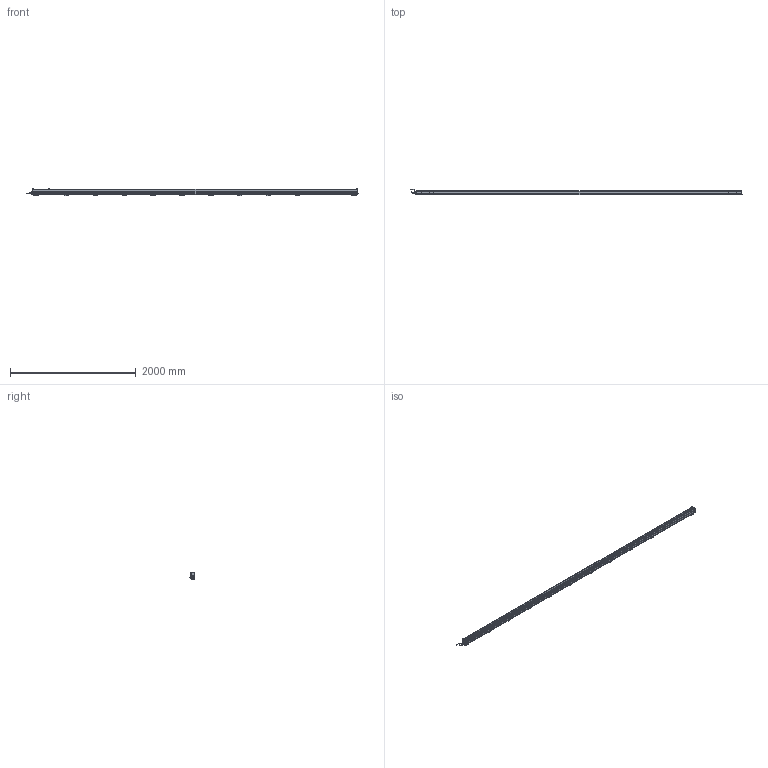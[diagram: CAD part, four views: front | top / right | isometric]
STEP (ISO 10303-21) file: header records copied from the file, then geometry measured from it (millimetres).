
FILE_DESCRIPTION(/* description */ (''),/* implementation_level */ '2;1');
FILE_NAME(/* name */ 'THUNDERION2_3D_5000-5195',/* time_stamp */ '2017-09-28T12:49:21+02:00',/* author */ (''),/* organization */ (''),/* preprocessor_version */ 'ST-DEVELOPER v15.7',/* originating_system */ 'HiCAD 2015 2002.1 Build 408',/* authorisation */ '');
FILE_SCHEMA (('AUTOMOTIVE_DESIGN { 1 0 10303 214 1 1 1 1 }'));
Products named in the file (163): Root; -_ThunderION 5000/5195; -_Side profile; -_Bar; -_Connector straight; EXTRUDED SOLID_0; -_Cord; REVOLVED SOLID_1; REVOLVED SOLID_3; DIN 13-M12x1,5; -_Connector angled; REVOLVED SOLID_2; 4532000100_Mounting bracket bars; -_Side piece; -_Slide piece; -_Bracket small; DIN 13-M3; DIN 76-M3; -_Cable End; light pipe M; light pipe L; -_Cap CE; -_Stud M4; -_Connector M12 male 5 pole_1; -_Contacts; ABSR_1_2_1_1_Inner part; ABSR_1_2_1_2_Inner part; bus; Pg 9; -_Ring tongue terminal; 9230000020_Nut M4; GEWINDE; 9240100020_Spring washer M4; ISO 7051-ST3.5x9.5-C-H_Tapping screws_0; -_Fill; -_Dead end; -_Cap DE; -_Emitter; -_Support Side Profile; -_End Plate
Assembly tree (162 placements, depth 6):
  Root
    -_ThunderION 5000/5195
      -_Side profile
      -_Side profile
      -_Bar
      -_Connector straight
        EXTRUDED SOLID_0
        -_Cord
        REVOLVED SOLID_1
        REVOLVED SOLID_3
          DIN 13-M12x1,5
      -_Connector angled
        REVOLVED SOLID_1
        EXTRUDED SOLID_0
        -_Cord
        REVOLVED SOLID_2
        REVOLVED SOLID_3
          DIN 13-M12x1,5
      4532000100_Mounting bracket bars
        -_Side piece
        -_Side piece
        -_Slide piece
        -_Bracket small
          DIN 13-M3
          DIN 13-M3
          DIN 76-M3
          DIN 76-M3
      4532000100_Mounting bracket bars
        -_Side piece
        -_Side piece
        -_Slide piece
        -_Bracket small
          DIN 13-M3
          DIN 13-M3
          DIN 76-M3
          DIN 76-M3
      4532000100_Mounting bracket bars
        -_Side piece
        -_Side piece
        -_Slide piece
        -_Bracket small
          DIN 13-M3
          DIN 13-M3
          DIN 76-M3
          DIN 76-M3
      4532000100_Mounting bracket bars
        -_Side piece
        -_Side piece
        -_Slide piece
        -_Bracket small
          DIN 13-M3
          DIN 13-M3
          DIN 76-M3
          DIN 76-M3
      4532000100_Mounting bracket bars
        -_Side piece
        -_Side piece
        -_Slide piece
        -_Bracket small
          DIN 13-M3
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Bounding box: 5273.34 x 92.25 x 113 mm (x, y, z)
Volume: 16391805.5 mm3; surface area: 3725718.2 mm2
Topology: 149 solids, 182 shells, 8726 faces, 22171 edges, 13299 vertices
Faces by surface type: cylinder 3630, plane 3484, torus 499, bspline 472, sphere 448, cone 193
Full cylindrical faces by diameter (mm): 0.8 x10, 1 x10, 2.387 x44, 2.5 x1, 2.64 x16, 3 x88, 3.141 x2, 3.5 x8, 4 x26, 4.2 x3, 4.4 x1, 5 x4, 5.5 x55, 7.3 x8, 8 x2, 8.4 x2, 9 x6, 9.6 x1, 10 x2, 10.16 x1, 10.5 x2, 11 x4, 12 x5, 12.8 x1, 13.8 x4, 13.86 x1, 14.5 x3, 15.199 x1, 15.2 x1
Entity records: 499596 total; most frequent: CARTESIAN_POINT 126693, DIRECTION 43273, PRESENTATION_STYLE_ASSIGNMENT 42100, OVER_RIDING_STYLED_ITEM 41955, DRAUGHTING_PRE_DEFINED_CURVE_FONT 41888, CURVE_STYLE 41888, ORIENTED_EDGE 41888, EDGE_CURVE 20944
